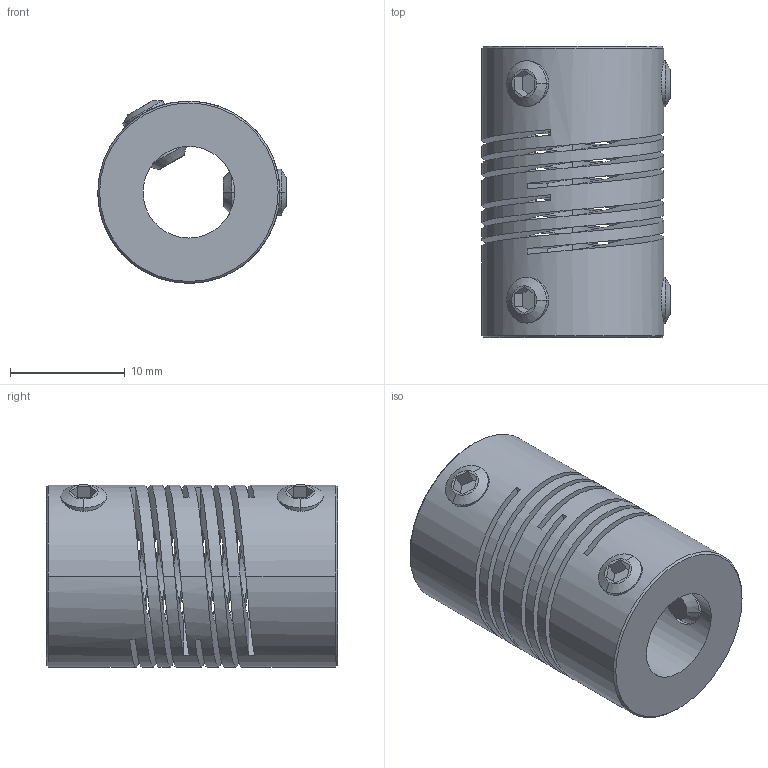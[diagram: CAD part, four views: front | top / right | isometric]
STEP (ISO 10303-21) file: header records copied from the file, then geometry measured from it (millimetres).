
FILE_DESCRIPTION((''),'2;1');
FILE_NAME('722_16_ASM','2006-12-05T',('Gary Melling'),(''),'PRO/ENGINEER BY PARAMETRIC TECHNOLOGY CORPORATION, 2006240','PRO/ENGINEER BY PARAMETRIC TECHNOLOGY CORPORATION, 2006240','');
FILE_SCHEMA(('CONFIG_CONTROL_DESIGN'));
Length unit declared in the file: millimetre
Products named in the file (3): 722_16; GS_4S; 722_16_ASM
Assembly tree (5 placements, depth 2):
  722_16_ASM
    722_16
    GS_4S  x4
Bounding box: 16.45 x 25.4 x 15.94 mm (x, y, z)
Volume: 3211.2 mm3; surface area: 4217.4 mm2
Topology: 5 solids, 5 shells, 122 faces, 334 edges, 212 vertices
Faces by surface type: plane 52, cylinder 38, cone 20, bspline 12
Entity records: 4822 total; most frequent: CARTESIAN_POINT 2753, ORIENTED_EDGE 476, DIRECTION 324, EDGE_CURVE 238, VERTEX_POINT 152, VECTOR 122, LINE 122, AXIS2_PLACEMENT_3D 101
